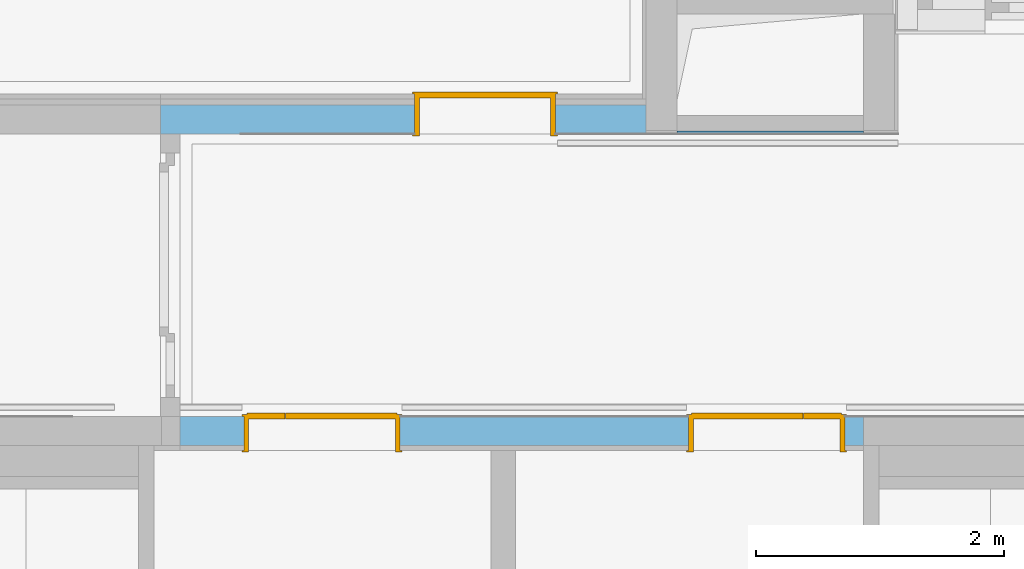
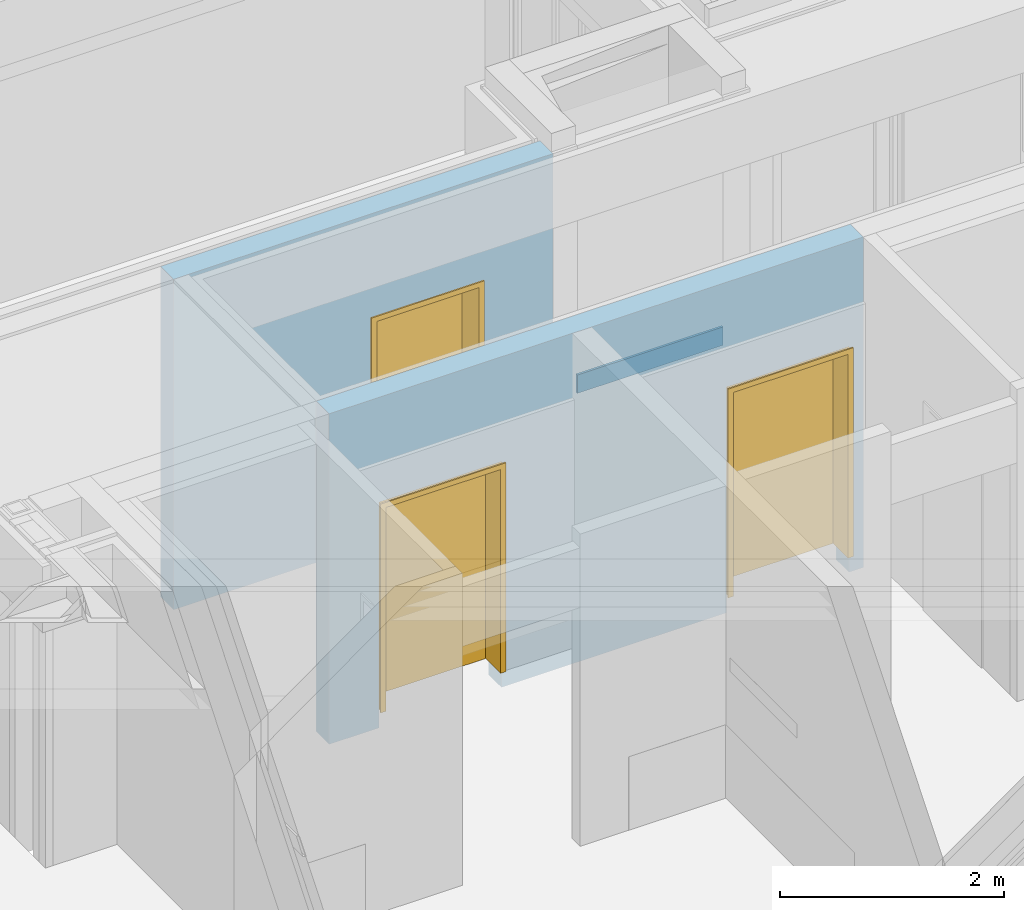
# One storey, part 123 of 207: 3 doors, 1 wall, 3 openings, plus 2 elements that do not belong to this part.
"""IFC4 building model written with IfcOpenShell, lengths in metres."""

from ifc_helpers import new_model, entity, si_unit, converted_unit, derived_unit, frame, frame_2d, origin, origin_with_axes, place, context, subcontext, project, spatial, polyline, rectangle, outline, extrude, faceted_brep, source, transform, mapped, material, type_object, element, fill, save


model = new_model("IFC4")

# Units and contexts
model_context = context("Model", 3, precision=1e-05, world=origin())
body_context = subcontext(model_context, "Body", "Model", "MODEL_VIEW")
ifc_project = project(units=[si_unit("LENGTHUNIT", "METRE"), si_unit("AREAUNIT", "SQUARE_METRE"), si_unit("VOLUMEUNIT", "CUBIC_METRE"), si_unit("MASSUNIT", "GRAM", prefix="KILO"), converted_unit("PLANEANGLEUNIT", "DEGREE", entity("IfcPlaneAngleMeasure", 0.0174532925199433), si_unit("PLANEANGLEUNIT", "RADIAN"), dimensions=[0, 0, 0, 0, 0, 0, 0]), derived_unit("THERMALTRANSMITTANCEUNIT", [(si_unit("POWERUNIT", "WATT"), 1), (si_unit("THERMODYNAMICTEMPERATUREUNIT", "KELVIN"), -1), (si_unit("LENGTHUNIT", "METRE"), -2)]), derived_unit("VOLUMETRICFLOWRATEUNIT", [(si_unit("LENGTHUNIT", "METRE"), 3), (converted_unit("TIMEUNIT", "hour", entity("IfcTimeMeasure", 3600.0), si_unit("TIMEUNIT", "SECOND"), dimensions=[0, 0, 1, 0, 0, 0, 0]), -1), (si_unit("LENGTHUNIT", "METRE"), -1)])], contexts=[model_context])

# Site, building, storey
site_placement = place(None, origin())
site = spatial("IfcSite", under=ifc_project, at=site_placement, Name="Psychiatrie Neubau Wunstorf", CompositionType="ELEMENT")
building_placement = place(site_placement, origin())
building = spatial("IfcBuilding", under=site, at=building_placement, Name="Neubau H2 Stationsgebäude", CompositionType="ELEMENT")
storey_placement = place(building_placement, frame((0.0, 0.0, -0.2)))
storey = spatial("IfcBuildingStorey", under=building, at=storey_placement, Name="H2 Ebene 0", CompositionType="ELEMENT", Elevation=-0.2)

# Wall
wall_1_placement = place(storey_placement, frame((77.4, 7.60750000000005, 0.9)))
element("IfcWall", 1, at=wall_1_placement, inside=storey, Name="WV 1.1", context=body_context, shape_type="Brep", body=[
    faceted_brep([(0.0, 0.025, 0.0), (0.0, 0.0, 0.0), (1.5, 0.0, 0.0), (1.5, 0.025, 0.0), (0.0, 0.0, 0.2), (0.0, 0.025, 0.2), (1.5, 0.025, 0.2), (1.5, 0.0, 0.2)], [[[0, 1, 2, 3]], [[4, 5, 6, 7]], [[1, 0, 5, 4]], [[2, 1, 4, 7]], [[3, 2, 7, 6]], [[0, 3, 6, 5]]], orient=[[False], [False], [False], [False], [False], [False]]),
])

# Wall, openings, doors
ifc_material_1 = material(Name="WI-HW 60")
wall_2_placement = place(storey_placement, frame((78.9, 5.3325, 0.0), z_axis=(0.0, 0.0, 1.0), x_axis=(-1.0, 0.0, 0.0)))
wall_2 = element("IfcWall", 2, at=wall_2_placement, inside=storey, material=ifc_material_1, context=body_context, shape_type="SweptSolid", body=[
    extrude(rectangle(XDim=5.50500000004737, YDim=0.232, at=frame_2d((2.75250000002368, 0.116), x_axis=(1.0, 0.0))), origin_with_axes(), (0.0, 0.0, 1.0), 3.6),
])
opening_1_placement = place(wall_2_placement, frame((0.149999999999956, 0.0, 0.0), z_axis=(0.0, 1.0, 0.0), x_axis=(0.0, 0.0, 1.0)))
opening_1 = element("IfcOpeningElement", 3, at=opening_1_placement, cuts=wall_2, Name="Türöffnung", ObjectType="Opening", context=body_context, shape_type="SweptSolid", body=[
    extrude(outline(polyline([(2.46, 1.26), (2.46, 0.0), (0.0, 0.0), (0.0, 1.26), (2.46, 1.26)])), origin_with_axes(), (0.0, 0.0, 1.0), 0.232),
])
opening_2_placement = place(wall_2_placement, frame((3.72999999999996, 0.0, 0.0), z_axis=(0.0, 1.0, 0.0), x_axis=(0.0, 0.0, 1.0)))
opening_2 = element("IfcOpeningElement", 4, at=opening_2_placement, cuts=wall_2, Name="Türöffnung", ObjectType="Opening", context=body_context, shape_type="SweptSolid", body=[
    extrude(outline(polyline([(2.46, 1.26), (2.46, 0.0), (0.0, 0.0), (0.0, 1.26), (2.46, 1.26)])), origin_with_axes(), (0.0, 0.0, 1.0), 0.232),
])
ifc_material_2 = material(Name="TI-2F-UZ-D")
door_type_1 = type_object("IfcDoorType", Name="SMT", OperationType="DOUBLE_DOOR_SINGLE_SWING", ParameterTakesPrecedence=False, PredefinedType="DOOR")
shared_shape_1 = source(origin_with_axes(), body_context, "Body", "Brep", [
    faceted_brep([(0.0, -0.015, 2.46), (0.04, -0.015, 2.46), (0.04, -0.0149999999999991, 0.2), (0.0, -0.0149999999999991, 0.2), (0.0, 0.287000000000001, 0.2), (0.04, 0.287000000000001, 0.2), (0.04, 0.287000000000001, 2.46), (0.0, 0.287000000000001, 2.46)], [[[0, 1, 2, 3]], [[4, 5, 6, 7]], [[3, 4, 7, 0]], [[2, 5, 4, 3]], [[1, 6, 5, 2]], [[0, 7, 6, 1]]], orient=[[False], [False], [False], [False], [False], [False]]),
    faceted_brep([(0.0, -0.015, 2.475), (0.0, -0.0149999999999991, 0.2), (-0.015, -0.0149999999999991, 0.2), (-0.015, -0.015, 2.475), (0.0, 0.0, 0.2), (0.0, 0.0, 2.475), (-0.015, 0.0, 2.475), (-0.015, 0.0, 0.2)], [[[0, 1, 2, 3]], [[4, 5, 6, 7]], [[1, 0, 5, 4]], [[2, 1, 4, 7]], [[3, 2, 7, 6]], [[0, 3, 6, 5]]], orient=[[False], [False], [False], [False], [False], [False]]),
    faceted_brep([(0.0, 0.272000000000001, 2.475), (0.0, 0.272000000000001, 0.2), (-0.015, 0.272000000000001, 0.2), (-0.015, 0.272000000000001, 2.475), (0.0, 0.287000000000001, 0.2), (0.0, 0.287000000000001, 2.475), (-0.015, 0.287000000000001, 2.475), (-0.015, 0.287000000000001, 0.2)], [[[0, 1, 2, 3]], [[4, 5, 6, 7]], [[1, 0, 5, 4]], [[2, 1, 4, 7]], [[3, 2, 7, 6]], [[0, 3, 6, 5]]], orient=[[False], [False], [False], [False], [False], [False]]),
    faceted_brep([(1.22, -0.015, 2.46), (1.26, -0.015, 2.46), (1.26, -0.015, 0.2), (1.22, -0.015, 0.2), (1.22, 0.287000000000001, 0.2), (1.26, 0.287000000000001, 0.2), (1.26, 0.287000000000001, 2.46), (1.22, 0.287000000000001, 2.46)], [[[0, 1, 2, 3]], [[4, 5, 6, 7]], [[3, 4, 7, 0]], [[2, 5, 4, 3]], [[1, 6, 5, 2]], [[0, 7, 6, 1]]], orient=[[False], [False], [False], [False], [False], [False]]),
    faceted_brep([(1.26, -0.015, 2.475), (1.275, -0.015, 2.475), (1.275, -0.015, 0.2), (1.26, -0.015, 0.2), (1.26, 0.0, 0.2), (1.275, 0.0, 0.2), (1.275, 0.0, 2.475), (1.26, 0.0, 2.475)], [[[0, 1, 2, 3]], [[4, 5, 6, 7]], [[3, 4, 7, 0]], [[2, 5, 4, 3]], [[1, 6, 5, 2]], [[0, 7, 6, 1]]], orient=[[False], [False], [False], [False], [False], [False]]),
    faceted_brep([(1.26, 0.272000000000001, 2.475), (1.275, 0.272000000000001, 2.475), (1.275, 0.272000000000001, 0.2), (1.26, 0.272000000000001, 0.2), (1.26, 0.287000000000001, 0.2), (1.275, 0.287000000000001, 0.2), (1.275, 0.287000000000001, 2.475), (1.26, 0.287000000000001, 2.475)], [[[0, 1, 2, 3]], [[4, 5, 6, 7]], [[3, 4, 7, 0]], [[2, 5, 4, 3]], [[1, 6, 5, 2]], [[0, 7, 6, 1]]], orient=[[False], [False], [False], [False], [False], [False]]),
    faceted_brep([(0.04, -0.015, 2.46), (1.22, -0.015, 2.46), (1.22, -0.015, 2.42), (0.04, -0.015, 2.42), (0.04, 0.287000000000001, 2.42), (1.22, 0.287000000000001, 2.42), (1.22, 0.287000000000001, 2.46), (0.04, 0.287000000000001, 2.46)], [[[0, 1, 2, 3]], [[4, 5, 6, 7]], [[3, 4, 7, 0]], [[2, 5, 4, 3]], [[1, 6, 5, 2]], [[0, 7, 6, 1]]], orient=[[False], [False], [False], [False], [False], [False]]),
    faceted_brep([(0.0, -0.015, 2.475), (1.26, -0.015, 2.475), (1.26, -0.015, 2.46), (0.0, -0.015, 2.46), (0.0, 0.0, 2.46), (1.26, 0.0, 2.46), (1.26, 0.0, 2.475), (0.0, 0.0, 2.475)], [[[0, 1, 2, 3]], [[4, 5, 6, 7]], [[3, 4, 7, 0]], [[2, 5, 4, 3]], [[1, 6, 5, 2]], [[0, 7, 6, 1]]], orient=[[False], [False], [False], [False], [False], [False]]),
    faceted_brep([(0.0, 0.272000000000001, 2.475), (1.26, 0.272000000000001, 2.475), (1.26, 0.272000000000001, 2.46), (0.0, 0.272000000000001, 2.46), (0.0, 0.287000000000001, 2.46), (1.26, 0.287000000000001, 2.46), (1.26, 0.287000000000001, 2.475), (0.0, 0.287000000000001, 2.475)], [[[0, 1, 2, 3]], [[4, 5, 6, 7]], [[3, 4, 7, 0]], [[2, 5, 4, 3]], [[1, 6, 5, 2]], [[0, 7, 6, 1]]], orient=[[False], [False], [False], [False], [False], [False]]),
    faceted_brep([(0.025, 0.252000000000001, 2.435), (0.925, 0.252000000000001, 2.435), (0.925, 0.252000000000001, 0.2), (0.025, 0.252000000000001, 0.2), (0.025, 0.302000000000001, 0.2), (0.925, 0.302000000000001, 0.2), (0.925, 0.302000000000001, 2.435), (0.025, 0.302000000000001, 2.435)], [[[0, 1, 2, 3]], [[4, 5, 6, 7]], [[3, 4, 7, 0]], [[2, 5, 4, 3]], [[1, 6, 5, 2]], [[0, 7, 6, 1]]], orient=[[False], [False], [False], [False], [False], [False]]),
    faceted_brep([(0.926, 0.252000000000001, 2.435), (1.235, 0.252, 2.435), (1.235, 0.252000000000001, 0.2), (0.926, 0.252000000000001, 0.2), (0.926, 0.302000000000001, 0.2), (1.235, 0.302000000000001, 0.2), (1.235, 0.302000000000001, 2.435), (0.926, 0.302000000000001, 2.435)], [[[0, 1, 2, 3]], [[4, 5, 6, 7]], [[3, 4, 7, 0]], [[2, 5, 4, 3]], [[1, 6, 5, 2]], [[0, 7, 6, 1]]], orient=[[False], [False], [False], [False], [False], [False]]),
])
door_1_placement = place(opening_1_placement, frame((0.0, 1.26, 0.272), z_axis=(1.0, 0.0, 0.0), x_axis=(0.0, -1.0, 0.0)))
door_1 = element("IfcDoor", 5, at=door_1_placement, inside=storey, type_object=door_type_1, material=ifc_material_2, Name="SMT", OverallHeight=2.46, OverallWidth=1.26, context=body_context, shape_type="MappedRepresentation", body=[
    mapped(shared_shape_1, transform((0.0, 0.0, 0.0), x_axis=(1.0, 0.0, 0.0), y_axis=(0.0, 1.0, 0.0), z_axis=(0.0, 0.0, 1.0), scale=1.0)),
])
fill(opening_1, door_1)
ifc_material_3 = material(Name="TI-2F-UZ-D")
door_type_2 = type_object("IfcDoorType", Name="SMT", OperationType="DOUBLE_DOOR_SINGLE_SWING", ParameterTakesPrecedence=False, PredefinedType="DOOR")
shared_shape_2 = source(origin_with_axes(), body_context, "Body", "Brep", [
    faceted_brep([(1.26, -0.015, 2.46), (1.26, -0.015, 0.2), (1.22, -0.015, 0.2), (1.22, -0.015, 2.46), (1.26, 0.287, 0.2), (1.26, 0.287, 2.46), (1.22, 0.287, 2.46), (1.22, 0.287, 0.2)], [[[0, 1, 2, 3]], [[4, 5, 6, 7]], [[1, 0, 5, 4]], [[2, 1, 4, 7]], [[3, 2, 7, 6]], [[0, 3, 6, 5]]], orient=[[False], [False], [False], [False], [False], [False]]),
    faceted_brep([(1.26, -0.015, 2.475), (1.275, -0.015, 2.475), (1.275, -0.015, 0.2), (1.26, -0.015, 0.2), (1.26, 0.0, 0.2), (1.275, 0.0, 0.2), (1.275, 0.0, 2.475), (1.26, 0.0, 2.475)], [[[0, 1, 2, 3]], [[4, 5, 6, 7]], [[3, 4, 7, 0]], [[2, 5, 4, 3]], [[1, 6, 5, 2]], [[0, 7, 6, 1]]], orient=[[False], [False], [False], [False], [False], [False]]),
    faceted_brep([(1.26, 0.272, 2.475), (1.275, 0.272, 2.475), (1.275, 0.272, 0.2), (1.26, 0.272, 0.2), (1.26, 0.287, 0.2), (1.275, 0.287, 0.2), (1.275, 0.287, 2.475), (1.26, 0.287, 2.475)], [[[0, 1, 2, 3]], [[4, 5, 6, 7]], [[3, 4, 7, 0]], [[2, 5, 4, 3]], [[1, 6, 5, 2]], [[0, 7, 6, 1]]], orient=[[False], [False], [False], [False], [False], [False]]),
    faceted_brep([(0.04, -0.015, 2.46), (0.04, -0.015, 0.2), (0.0, -0.015, 0.2), (0.0, -0.015, 2.46), (0.04, 0.287, 0.2), (0.04, 0.287, 2.46), (0.0, 0.287, 2.46), (0.0, 0.287, 0.2)], [[[0, 1, 2, 3]], [[4, 5, 6, 7]], [[1, 0, 5, 4]], [[2, 1, 4, 7]], [[3, 2, 7, 6]], [[0, 3, 6, 5]]], orient=[[False], [False], [False], [False], [False], [False]]),
    faceted_brep([(0.0, -0.015, 2.475), (0.0, -0.015, 0.2), (-0.015, -0.015, 0.2), (-0.015, -0.015, 2.475), (0.0, 0.0, 0.2), (0.0, 0.0, 2.475), (-0.015, 0.0, 2.475), (-0.015, 0.0, 0.2)], [[[0, 1, 2, 3]], [[4, 5, 6, 7]], [[1, 0, 5, 4]], [[2, 1, 4, 7]], [[3, 2, 7, 6]], [[0, 3, 6, 5]]], orient=[[False], [False], [False], [False], [False], [False]]),
    faceted_brep([(0.0, 0.272, 2.475), (0.0, 0.272, 0.2), (-0.015, 0.272, 0.2), (-0.015, 0.272, 2.475), (0.0, 0.287, 0.2), (0.0, 0.287, 2.475), (-0.015, 0.287, 2.475), (-0.015, 0.287, 0.2)], [[[0, 1, 2, 3]], [[4, 5, 6, 7]], [[1, 0, 5, 4]], [[2, 1, 4, 7]], [[3, 2, 7, 6]], [[0, 3, 6, 5]]], orient=[[False], [False], [False], [False], [False], [False]]),
    faceted_brep([(1.22, -0.015, 2.46), (1.22, -0.015, 2.42), (0.04, -0.015, 2.42), (0.04, -0.015, 2.46), (1.22, 0.287, 2.42), (1.22, 0.287, 2.46), (0.04, 0.287, 2.46), (0.04, 0.287, 2.42)], [[[0, 1, 2, 3]], [[4, 5, 6, 7]], [[1, 0, 5, 4]], [[2, 1, 4, 7]], [[3, 2, 7, 6]], [[0, 3, 6, 5]]], orient=[[False], [False], [False], [False], [False], [False]]),
    faceted_brep([(1.26, -0.015, 2.475), (1.26, -0.015, 2.46), (0.0, -0.015, 2.46), (0.0, -0.015, 2.475), (1.26, 0.0, 2.46), (1.26, 0.0, 2.475), (0.0, 0.0, 2.475), (0.0, 0.0, 2.46)], [[[0, 1, 2, 3]], [[4, 5, 6, 7]], [[1, 0, 5, 4]], [[2, 1, 4, 7]], [[3, 2, 7, 6]], [[0, 3, 6, 5]]], orient=[[False], [False], [False], [False], [False], [False]]),
    faceted_brep([(1.26, 0.272, 2.475), (1.26, 0.272, 2.46), (0.0, 0.272, 2.46), (0.0, 0.272, 2.475), (1.26, 0.287, 2.46), (1.26, 0.287, 2.475), (0.0, 0.287, 2.475), (0.0, 0.287, 2.46)], [[[0, 1, 2, 3]], [[4, 5, 6, 7]], [[1, 0, 5, 4]], [[2, 1, 4, 7]], [[3, 2, 7, 6]], [[0, 3, 6, 5]]], orient=[[False], [False], [False], [False], [False], [False]]),
    faceted_brep([(1.235, 0.252, 2.435), (1.235, 0.252, 0.2), (0.335, 0.252, 0.2), (0.335, 0.252, 2.435), (1.235, 0.302, 0.2), (1.235, 0.302, 2.435), (0.335, 0.302, 2.435), (0.335, 0.302, 0.2)], [[[0, 1, 2, 3]], [[4, 5, 6, 7]], [[1, 0, 5, 4]], [[2, 1, 4, 7]], [[3, 2, 7, 6]], [[0, 3, 6, 5]]], orient=[[False], [False], [False], [False], [False], [False]]),
    faceted_brep([(0.334, 0.252, 2.435), (0.334, 0.252, 0.2), (0.025, 0.252, 0.2), (0.025, 0.252, 2.435), (0.334, 0.302, 0.2), (0.334, 0.302, 2.435), (0.025, 0.302, 2.435), (0.025, 0.302, 0.2)], [[[0, 1, 2, 3]], [[4, 5, 6, 7]], [[1, 0, 5, 4]], [[2, 1, 4, 7]], [[3, 2, 7, 6]], [[0, 3, 6, 5]]], orient=[[False], [False], [False], [False], [False], [False]]),
])
door_2_placement = place(opening_2_placement, frame((0.0, 1.26, 0.272), z_axis=(1.0, 0.0, 0.0), x_axis=(0.0, -1.0, 0.0)))
door_2 = element("IfcDoor", 6, at=door_2_placement, inside=storey, type_object=door_type_2, material=ifc_material_3, Name="SMT", OverallHeight=2.46, OverallWidth=1.26, context=body_context, shape_type="MappedRepresentation", body=[
    mapped(shared_shape_2, transform((0.0, 0.0, 0.0), x_axis=(1.0, 0.0, 0.0), y_axis=(0.0, 1.0, 0.0), z_axis=(0.0, 0.0, 1.0), scale=1.0)),
])
fill(opening_2, door_2)

# Wall, opening, door
ifc_material_4 = material(Name="WI-HW 60")
wall_3_placement = place(storey_placement, frame((73.2399999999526, 7.6075, 0.0)))
wall_3 = element("IfcWall", 7, at=wall_3_placement, inside=storey, material=ifc_material_4, context=body_context, shape_type="SweptSolid", body=[
    extrude(rectangle(XDim=3.91000000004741, YDim=0.232, at=frame_2d((1.95500000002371, 0.116), x_axis=(1.0, 0.0))), origin_with_axes(), (0.0, 0.0, 1.0), 3.6),
])
opening_3_placement = place(wall_3_placement, frame((3.18000000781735, 0.232, 0.0), z_axis=(0.0, -1.0, 0.0), x_axis=(0.0, 0.0, 1.0)))
opening_3 = element("IfcOpeningElement", 8, at=opening_3_placement, cuts=wall_3, Name="Türöffnung", ObjectType="Opening", context=body_context, shape_type="SweptSolid", body=[
    extrude(outline(polyline([(2.46, 1.135), (2.46, 0.0), (0.0, 0.0), (0.0, 1.135), (2.46, 1.135)])), origin_with_axes(), (0.0, 0.0, 1.0), 0.232),
])
ifc_material_5 = material(Name="TI-1F-UZ-D")
door_type_3 = type_object("IfcDoorType", Name="SMT", OperationType="SINGLE_SWING_RIGHT", ParameterTakesPrecedence=False, PredefinedType="DOOR")
shared_shape_3 = source(origin_with_axes(), body_context, "Body", "Brep", [
    faceted_brep([(1.135, -0.015, 2.46), (1.135, -0.015, 0.2), (1.095, -0.015, 0.2), (1.095, -0.015, 2.46), (1.135, 0.337, 0.2), (1.135, 0.337, 2.46), (1.095, 0.337, 2.46), (1.095, 0.337, 0.2)], [[[0, 1, 2, 3]], [[4, 5, 6, 7]], [[1, 0, 5, 4]], [[2, 1, 4, 7]], [[3, 2, 7, 6]], [[0, 3, 6, 5]]], orient=[[False], [False], [False], [False], [False], [False]]),
    faceted_brep([(1.135, -0.015, 2.475), (1.15, -0.015, 2.475), (1.15, -0.015, 0.2), (1.135, -0.015, 0.2), (1.135, 0.0, 0.2), (1.15, 0.0, 0.2), (1.15, 0.0, 2.475), (1.135, 0.0, 2.475)], [[[0, 1, 2, 3]], [[4, 5, 6, 7]], [[3, 4, 7, 0]], [[2, 5, 4, 3]], [[1, 6, 5, 2]], [[0, 7, 6, 1]]], orient=[[False], [False], [False], [False], [False], [False]]),
    faceted_brep([(1.135, 0.322, 2.475), (1.15, 0.322, 2.475), (1.15, 0.322, 0.2), (1.135, 0.322, 0.2), (1.135, 0.337, 0.2), (1.15, 0.337, 0.2), (1.15, 0.337, 2.475), (1.135, 0.337, 2.475)], [[[0, 1, 2, 3]], [[4, 5, 6, 7]], [[3, 4, 7, 0]], [[2, 5, 4, 3]], [[1, 6, 5, 2]], [[0, 7, 6, 1]]], orient=[[False], [False], [False], [False], [False], [False]]),
    faceted_brep([(0.04, -0.015, 2.46), (0.04, -0.015, 0.2), (0.0, -0.015, 0.2), (0.0, -0.015, 2.46), (0.04, 0.337, 0.2), (0.04, 0.337, 2.46), (0.0, 0.337, 2.46), (0.0, 0.337, 0.2)], [[[0, 1, 2, 3]], [[4, 5, 6, 7]], [[1, 0, 5, 4]], [[2, 1, 4, 7]], [[3, 2, 7, 6]], [[0, 3, 6, 5]]], orient=[[False], [False], [False], [False], [False], [False]]),
    faceted_brep([(0.0, -0.015, 2.475), (0.0, -0.015, 0.2), (-0.015, -0.015, 0.2), (-0.015, -0.015, 2.475), (0.0, 0.0, 0.2), (0.0, 0.0, 2.475), (-0.015, 0.0, 2.475), (-0.015, 0.0, 0.2)], [[[0, 1, 2, 3]], [[4, 5, 6, 7]], [[1, 0, 5, 4]], [[2, 1, 4, 7]], [[3, 2, 7, 6]], [[0, 3, 6, 5]]], orient=[[False], [False], [False], [False], [False], [False]]),
    faceted_brep([(0.0, 0.322, 2.475), (0.0, 0.322, 0.2), (-0.015, 0.322, 0.2), (-0.015, 0.322, 2.475), (0.0, 0.337, 0.2), (0.0, 0.337, 2.475), (-0.015, 0.337, 2.475), (-0.015, 0.337, 0.2)], [[[0, 1, 2, 3]], [[4, 5, 6, 7]], [[1, 0, 5, 4]], [[2, 1, 4, 7]], [[3, 2, 7, 6]], [[0, 3, 6, 5]]], orient=[[False], [False], [False], [False], [False], [False]]),
    faceted_brep([(1.095, -0.015, 2.46), (1.095, -0.015, 2.42), (0.04, -0.015, 2.42), (0.04, -0.015, 2.46), (1.095, 0.337, 2.42), (1.095, 0.337, 2.46), (0.04, 0.337, 2.46), (0.04, 0.337, 2.42)], [[[0, 1, 2, 3]], [[4, 5, 6, 7]], [[1, 0, 5, 4]], [[2, 1, 4, 7]], [[3, 2, 7, 6]], [[0, 3, 6, 5]]], orient=[[False], [False], [False], [False], [False], [False]]),
    faceted_brep([(1.135, -0.015, 2.475), (1.135, -0.015, 2.46), (0.0, -0.015, 2.46), (0.0, -0.015, 2.475), (1.135, 0.0, 2.46), (1.135, 0.0, 2.475), (0.0, 0.0, 2.475), (0.0, 0.0, 2.46)], [[[0, 1, 2, 3]], [[4, 5, 6, 7]], [[1, 0, 5, 4]], [[2, 1, 4, 7]], [[3, 2, 7, 6]], [[0, 3, 6, 5]]], orient=[[False], [False], [False], [False], [False], [False]]),
    faceted_brep([(1.135, 0.322, 2.475), (1.135, 0.322, 2.46), (0.0, 0.322, 2.46), (0.0, 0.322, 2.475), (1.135, 0.337, 2.46), (1.135, 0.337, 2.475), (0.0, 0.337, 2.475), (0.0, 0.337, 2.46)], [[[0, 1, 2, 3]], [[4, 5, 6, 7]], [[1, 0, 5, 4]], [[2, 1, 4, 7]], [[3, 2, 7, 6]], [[0, 3, 6, 5]]], orient=[[False], [False], [False], [False], [False], [False]]),
    faceted_brep([(1.11, 0.288, 2.435), (1.11, 0.288, 0.2), (0.025, 0.288, 0.2), (0.025, 0.288, 2.435), (1.11, 0.338, 0.2), (1.11, 0.338, 2.435), (0.025, 0.338, 2.435), (0.025, 0.338, 0.2)], [[[0, 1, 2, 3]], [[4, 5, 6, 7]], [[1, 0, 5, 4]], [[2, 1, 4, 7]], [[3, 2, 7, 6]], [[0, 3, 6, 5]]], orient=[[False], [False], [False], [False], [False], [False]]),
])
door_3_placement = place(opening_3_placement, frame((0.0, 1.135, 0.232), z_axis=(1.0, 0.0, 0.0), x_axis=(0.0, -1.0, 0.0)))
door_3 = element("IfcDoor", 9, at=door_3_placement, inside=storey, type_object=door_type_3, material=ifc_material_5, Name="SMT", OverallHeight=2.46, OverallWidth=1.135, context=body_context, shape_type="MappedRepresentation", body=[
    mapped(shared_shape_3, transform((0.0, 0.0, 0.0), x_axis=(1.0, 0.0, 0.0), y_axis=(0.0, 1.0, 0.0), z_axis=(0.0, 0.0, 1.0), scale=1.0)),
])
fill(opening_3, door_3)

save(model, "model.ifc")
